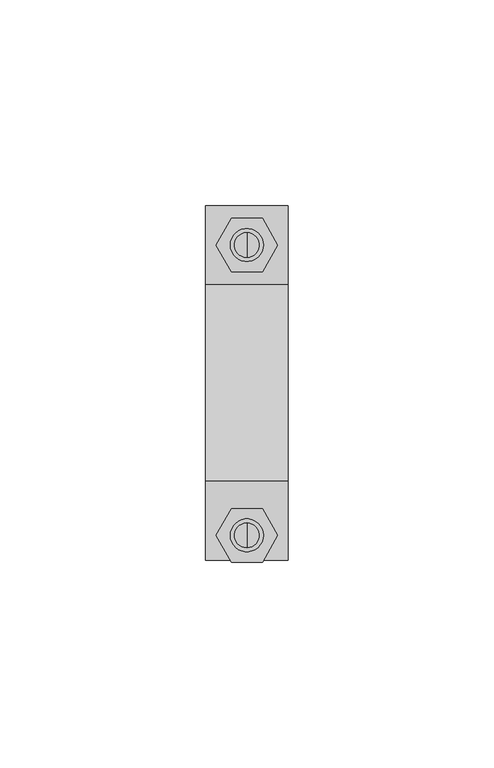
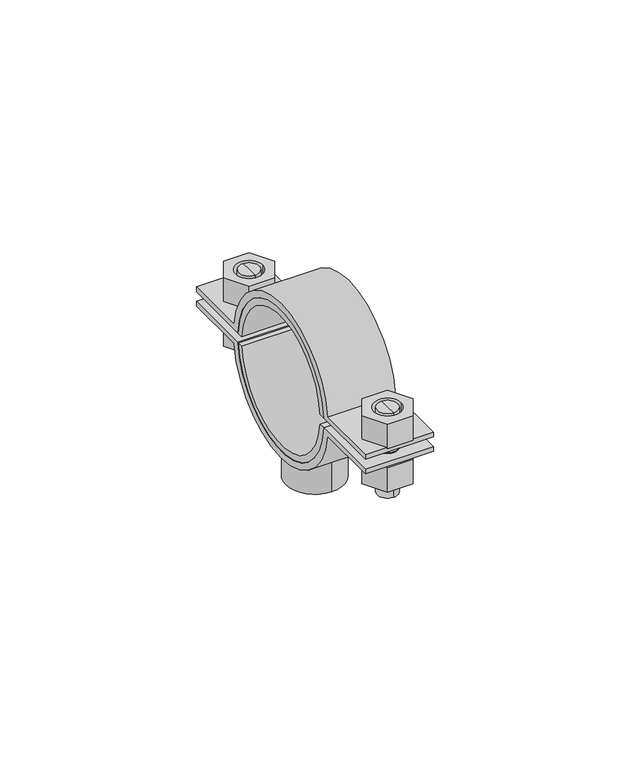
"""IFC4 building model written with IfcOpenShell, lengths in millimetres: valve geometry, Superfix DG2 Clamp Extra : Superfix DG2 Clamp Extra."""

from ifc_helpers import new_model, si_unit, point, frame, frame_2d, origin, origin_2d, place, context, project, spatial, polyline, circle_curve, trimmed, segment, composite_curve, outline, extrude, source, transform, mapped, element, save
from ifc_brep_helpers import plane_surface, cylinder_surface, advanced_brep


def valve_6bdfb71e(model_context):
    return source(origin(), model_context, "Body", "SolidModel", [
        advanced_brep(
        [(0.0, 36.5, 334.4), (0.0, 30.5, 334.4), (0.0, 30.5, 348.5), (0.0, 36.5, 348.5), (0.0, 33.5, 334.4)],
        [
            (0, 1, circle_curve(frame((0.0, 33.5, 334.4), z_axis=(0.0, 0.0, 1.0), x_axis=(0.0, 1.0, 0.0)), 3.0)),
            (1, 2),
            (2, 3, circle_curve(frame((0.0, 33.5, 348.5), z_axis=(0.0, 0.0, -1.0), x_axis=(0.0, 1.0, 0.0)), 3.0)),
            (3, 0),
            (1, 0, circle_curve(frame((0.0, 33.5, 334.4), z_axis=(0.0, 0.0, 1.0), x_axis=(0.0, 1.0, 0.0)), 3.0)),
            (3, 2, circle_curve(frame((0.0, 33.5, 348.5), z_axis=(0.0, 0.0, -1.0), x_axis=(0.0, 1.0, 0.0)), 3.0)),
            (0, 4),
            (4, 1),
        ],
        [
            cylinder_surface(frame((0.0, 33.5, 348.2806094), z_axis=(0.0, 0.0, 1.0), x_axis=(0.0, 1.0, 0.0)), 3.0),
            plane_surface(frame((0.0, 33.5, 334.4), z_axis=(0.0, 0.0, -1.0), x_axis=(0.0, 1.0, 0.0))),
            plane_surface(frame((13.75, -43.0, 348.5), z_axis=(0.0, 0.0, 1.0), x_axis=(-1.0, 0.0, 0.0))),
        ],
        [
            (0, [[1, 2, 3, 4]]),
            (0, [[5, -4, 6, -2]]),
            (1, [[-1, 7, 8]]),
            (1, [[-5, -8, -7]]),
            (2, [[-3, -6]]),
        ],
    ),
        advanced_brep(
        [(0.0, 30.5, 360.6), (0.0, 36.5, 360.6), (0.0, 36.5, 351.5), (0.0, 30.5, 351.5), (0.0, 33.5, 360.6)],
        [
            (0, 1, circle_curve(frame((0.0, 33.5, 360.6), z_axis=(0.0, 0.0, -1.0), x_axis=(0.0, 1.0, 0.0)), 3.0)),
            (1, 2),
            (2, 3, circle_curve(frame((0.0, 33.5, 351.5), z_axis=(0.0, 0.0, 1.0), x_axis=(0.0, 1.0, 0.0)), 3.0)),
            (3, 0),
            (1, 0, circle_curve(frame((0.0, 33.5, 360.6), z_axis=(0.0, 0.0, -1.0), x_axis=(0.0, 1.0, 0.0)), 3.0)),
            (3, 2, circle_curve(frame((0.0, 33.5, 351.5), z_axis=(0.0, 0.0, 1.0), x_axis=(0.0, 1.0, 0.0)), 3.0)),
            (0, 4),
            (4, 1),
        ],
        [
            cylinder_surface(frame((0.0, 33.5, 348.2806094), z_axis=(0.0, 0.0, 1.0), x_axis=(0.0, 1.0, 0.0)), 3.0),
            plane_surface(frame((0.0, 33.5, 360.6), z_axis=(0.0, 0.0, 1.0), x_axis=(0.0, 1.0, 0.0))),
            plane_surface(frame((13.75, 43.0, 351.5), z_axis=(0.0, 0.0, -1.0), x_axis=(-1.0, 0.0, 0.0))),
        ],
        [
            (0, [[1, 2, 3, 4]]),
            (0, [[5, -4, 6, -2]]),
            (1, [[-1, 7, 8]]),
            (1, [[-5, -8, -7]]),
            (2, [[-3, -6]]),
        ],
    ),
        advanced_brep(
        [(0.0, -40.0, 360.6), (0.0, -34.0, 360.6), (0.0, -34.0, 351.5), (0.0, -40.0, 351.5), (0.0, -37.0, 360.6)],
        [
            (0, 1, circle_curve(frame((0.0, -37.0, 360.6), z_axis=(0.0, 0.0, -1.0), x_axis=(0.0, -1.0, 0.0)), 3.0)),
            (1, 2),
            (2, 3, circle_curve(frame((0.0, -37.0, 351.5), z_axis=(0.0, 0.0, 1.0), x_axis=(0.0, -1.0, 0.0)), 3.0)),
            (3, 0),
            (1, 0, circle_curve(frame((0.0, -37.0, 360.6), z_axis=(0.0, 0.0, -1.0), x_axis=(0.0, -1.0, 0.0)), 3.0)),
            (3, 2, circle_curve(frame((0.0, -37.0, 351.5), z_axis=(0.0, 0.0, 1.0), x_axis=(0.0, -1.0, 0.0)), 3.0)),
            (0, 4),
            (4, 1),
        ],
        [
            cylinder_surface(frame((0.0, -37.0, 348.2806094), z_axis=(0.0, 0.0, -1.0), x_axis=(0.0, -1.0, 0.0)), 3.0),
            plane_surface(frame((0.0, -37.0, 360.6), z_axis=(0.0, 0.0, 1.0), x_axis=(0.0, -1.0, 0.0))),
            plane_surface(frame((13.75, 43.0, 351.5), z_axis=(0.0, 0.0, -1.0), x_axis=(-1.0, 0.0, 0.0))),
        ],
        [
            (0, [[1, 2, 3, 4]]),
            (0, [[5, -4, 6, -2]]),
            (1, [[-1, 7, 8]]),
            (1, [[-5, -8, -7]]),
            (2, [[-3, -6]]),
        ],
    ),
        advanced_brep(
        [(0.0, -34.0, 334.4), (0.0, -40.0, 334.4), (0.0, -40.0, 348.5), (0.0, -34.0, 348.5), (0.0, -37.0, 334.4)],
        [
            (0, 1, circle_curve(frame((0.0, -37.0, 334.4), z_axis=(0.0, 0.0, 1.0), x_axis=(0.0, -1.0, 0.0)), 3.0)),
            (1, 2),
            (2, 3, circle_curve(frame((0.0, -37.0, 348.5), z_axis=(0.0, 0.0, -1.0), x_axis=(0.0, -1.0, 0.0)), 3.0)),
            (3, 0),
            (1, 0, circle_curve(frame((0.0, -37.0, 334.4), z_axis=(0.0, 0.0, 1.0), x_axis=(0.0, -1.0, 0.0)), 3.0)),
            (3, 2, circle_curve(frame((0.0, -37.0, 348.5), z_axis=(0.0, 0.0, -1.0), x_axis=(0.0, -1.0, 0.0)), 3.0)),
            (0, 4),
            (4, 1),
        ],
        [
            cylinder_surface(frame((0.0, -37.0, 348.2806094), z_axis=(0.0, 0.0, -1.0), x_axis=(0.0, -1.0, 0.0)), 3.0),
            plane_surface(frame((0.0, -37.0, 334.4), z_axis=(0.0, 0.0, -1.0), x_axis=(0.0, -1.0, 0.0))),
            plane_surface(frame((13.75, -43.0, 348.5), z_axis=(0.0, 0.0, 1.0), x_axis=(-1.0, 0.0, 0.0))),
        ],
        [
            (0, [[1, 2, 3, 4]]),
            (0, [[5, -4, 6, -2]]),
            (1, [[-1, 7, 8]]),
            (1, [[-5, -8, -7]]),
            (2, [[-3, -6]]),
        ],
    ),
        extrude(outline(composite_curve([segment(trimmed(circle_curve(frame_2d((0.0, 350.0)), 22.0), [point((-21.9488041, 348.5))], [point((21.9488041, 348.5))], True, "CARTESIAN"), True, "CONTINUOUS"), segment(polyline([(21.9488041, 348.5), (43.0, 348.5), (43.0, 347.0), (23.8117618, 347.0)]), True, "CONTINUOUS"), segment(trimmed(circle_curve(frame_2d((0.0, 350.0)), 24.0), [point((23.8117618, 347.0))], [point((-23.8117618, 347.0))], False, "CARTESIAN"), True, "CONTINUOUS"), segment(polyline([(-23.8117618, 347.0), (-43.0, 347.0), (-43.0, 348.5), (-21.9488041, 348.5)]), True, "CONTINUOUS")], self_intersect=False)), frame((-10.0, 0.0, 0.0), z_axis=(1.0, 0.0, 0.0), x_axis=(0.0, 1.0, 0.0)), (0.0, 0.0, 1.0), 20.0),
        extrude(outline(composite_curve([segment(trimmed(circle_curve(frame_2d((0.0, 350.0)), 22.0), [point((21.9488041, 351.5))], [point((-21.9488041, 351.5))], True, "CARTESIAN"), True, "CONTINUOUS"), segment(polyline([(-21.9488041, 351.5), (-43.0, 351.5), (-43.0, 353.0), (-23.8117618, 353.0)]), True, "CONTINUOUS"), segment(trimmed(circle_curve(frame_2d((0.0, 350.0)), 24.0), [point((-23.8117618, 353.0))], [point((23.8117618, 353.0))], False, "CARTESIAN"), True, "CONTINUOUS"), segment(polyline([(23.8117618, 353.0), (43.0, 353.0), (43.0, 351.5), (21.9488041, 351.5)]), True, "CONTINUOUS")], self_intersect=False)), frame((-10.0, 0.0, 0.0), z_axis=(1.0, 0.0, 0.0), x_axis=(0.0, 1.0, 0.0)), (0.0, 0.0, 1.0), 20.0),
        extrude(outline(polyline([(7.5055535, -37.0), (3.7527767, -43.5), (-3.7527767, -43.5), (-7.5055535, -37.0), (-3.7527767, -30.5), (3.7527767, -30.5), (7.5055535, -37.0)]), holes=[composite_curve([segment(trimmed(circle_curve(frame_2d((0.0, -37.0)), 4.0), [point((4.0, -37.0))], [point((-4.0, -37.0))], True, "CARTESIAN"), True, "CONTINUOUS"), segment(trimmed(circle_curve(frame_2d((0.0, -37.0)), 4.0), [point((-4.0, -37.0))], [point((4.0, -37.0))], True, "CARTESIAN"), True, "CONTINUOUS")], self_intersect=False)]), frame((0.0, 0.0, 353.0), z_axis=(0.0, 0.0, 1.0), x_axis=(1.0, 0.0, 0.0)), (0.0, 0.0, 1.0), 7.6),
        extrude(outline(polyline([(7.5055535, 33.5), (3.7527767, 27.0), (-3.7527767, 27.0), (-7.5055535, 33.5), (-3.7527767, 40.0), (3.7527767, 40.0), (7.5055535, 33.5)]), holes=[composite_curve([segment(trimmed(circle_curve(frame_2d((0.0, 33.5)), 4.0), [point((4.0, 33.5))], [point((-4.0, 33.5))], True, "CARTESIAN"), True, "CONTINUOUS"), segment(trimmed(circle_curve(frame_2d((0.0, 33.5)), 4.0), [point((-4.0, 33.5))], [point((4.0, 33.5))], True, "CARTESIAN"), True, "CONTINUOUS")], self_intersect=False)]), frame((0.0, 0.0, 353.0), z_axis=(0.0, 0.0, 1.0), x_axis=(1.0, 0.0, 0.0)), (0.0, 0.0, 1.0), 7.6),
        extrude(outline(polyline([(7.5055535, -37.0), (3.7527767, -43.5), (-3.7527767, -43.5), (-7.5055535, -37.0), (-3.7527767, -30.5), (3.7527767, -30.5), (7.5055535, -37.0)]), holes=[composite_curve([segment(trimmed(circle_curve(frame_2d((0.0, -37.0)), 4.0), [point((4.0, -37.0))], [point((-4.0, -37.0))], True, "CARTESIAN"), True, "CONTINUOUS"), segment(trimmed(circle_curve(frame_2d((0.0, -37.0)), 4.0), [point((-4.0, -37.0))], [point((4.0, -37.0))], True, "CARTESIAN"), True, "CONTINUOUS")], self_intersect=False)]), frame((0.0, 0.0, 339.4), z_axis=(0.0, 0.0, 1.0), x_axis=(1.0, 0.0, 0.0)), (0.0, 0.0, 1.0), 7.6),
        extrude(outline(polyline([(7.5055535, 33.5), (3.7527767, 27.0), (-3.7527767, 27.0), (-7.5055535, 33.5), (-3.7527767, 40.0), (3.7527767, 40.0), (7.5055535, 33.5)]), holes=[composite_curve([segment(trimmed(circle_curve(frame_2d((0.0, 33.5)), 4.0), [point((4.0, 33.5))], [point((-4.0, 33.5))], True, "CARTESIAN"), True, "CONTINUOUS"), segment(trimmed(circle_curve(frame_2d((0.0, 33.5)), 4.0), [point((-4.0, 33.5))], [point((4.0, 33.5))], True, "CARTESIAN"), True, "CONTINUOUS")], self_intersect=False)]), frame((0.0, 0.0, 339.4), z_axis=(0.0, 0.0, 1.0), x_axis=(1.0, 0.0, 0.0)), (0.0, 0.0, 1.0), 7.6),
        extrude(outline(composite_curve([segment(trimmed(circle_curve(origin_2d(), 8.5), [point((0.0, 8.5))], [point((0.0, -8.5))], False, "CARTESIAN"), True, "CONTINUOUS"), segment(trimmed(circle_curve(origin_2d(), 8.5), [point((0.0, -8.5))], [point((0.0, 8.5))], False, "CARTESIAN"), True, "CONTINUOUS")], self_intersect=False), holes=[composite_curve([segment(trimmed(circle_curve(origin_2d(), 5.0), [point((0.0, 5.0))], [point((0.0, -5.0))], True, "CARTESIAN"), True, "CONTINUOUS"), segment(trimmed(circle_curve(origin_2d(), 5.0), [point((0.0, -5.0))], [point((0.0, 5.0))], True, "CARTESIAN"), True, "CONTINUOUS")], self_intersect=False)]), frame((0.0, 0.0, 317.0), z_axis=(0.0, 0.0, 1.0), x_axis=(1.0, 0.0, 0.0)), (0.0, 0.0, 1.0), 11.5),
        extrude(outline(composite_curve([segment(trimmed(circle_curve(frame_2d((0.0, 350.0)), 20.0), [point((19.9436707, 351.5))], [point((-19.9436707, 351.5))], True, "CARTESIAN"), True, "CONTINUOUS"), segment(polyline([(-19.9436707, 351.5), (-21.9488041, 351.5)]), True, "CONTINUOUS"), segment(trimmed(circle_curve(frame_2d((0.0, 350.0)), 22.0), [point((-21.9488041, 351.5))], [point((21.9488041, 351.5))], False, "CARTESIAN"), True, "CONTINUOUS"), segment(polyline([(21.9488041, 351.5), (19.9436707, 351.5)]), True, "CONTINUOUS")], self_intersect=False)), frame((-10.0, 0.0, 0.0), z_axis=(1.0, 0.0, 0.0), x_axis=(0.0, 1.0, 0.0)), (0.0, 0.0, 1.0), 20.0),
        extrude(outline(composite_curve([segment(polyline([(19.9436707, 348.5), (21.9488041, 348.5)]), True, "CONTINUOUS"), segment(trimmed(circle_curve(frame_2d((0.0, 350.0)), 22.0), [point((21.9488041, 348.5))], [point((-21.9488041, 348.5))], False, "CARTESIAN"), True, "CONTINUOUS"), segment(polyline([(-21.9488041, 348.5), (-19.9436707, 348.5)]), True, "CONTINUOUS"), segment(trimmed(circle_curve(frame_2d((0.0, 350.0)), 20.0), [point((-19.9436707, 348.5))], [point((19.9436707, 348.5))], True, "CARTESIAN"), True, "CONTINUOUS")], self_intersect=False)), frame((-10.0, 0.0, 0.0), z_axis=(1.0, 0.0, 0.0), x_axis=(0.0, 1.0, 0.0)), (0.0, 0.0, 1.0), 20.0),
    ])


if __name__ == "__main__":
    model = new_model("IFC4")
    model_context = context("Model", 3, world=origin())
    ifc_project = project(units=[si_unit("LENGTHUNIT", "METRE", prefix="MILLI")], contexts=[model_context])
    site = spatial("IfcSite", under=ifc_project)
    building = spatial("IfcBuilding", under=site)
    placement = place(None, origin())
    valve_shape = valve_6bdfb71e(model_context)
    element("IfcValve", 1, ObjectType="Superfix DG2 Clamp Extra : Superfix DG2 Clamp Extra", at=placement, inside=building, context=model_context, shape_type="MappedRepresentation", body=[
        mapped(valve_shape, transform((0.0, 0.0, 0.0), x_axis=(1.0, 0.0, 0.0), y_axis=(0.0, 1.0, 0.0), z_axis=(0.0, 0.0, 1.0))),
    ])
    save(model, "model.ifc")
